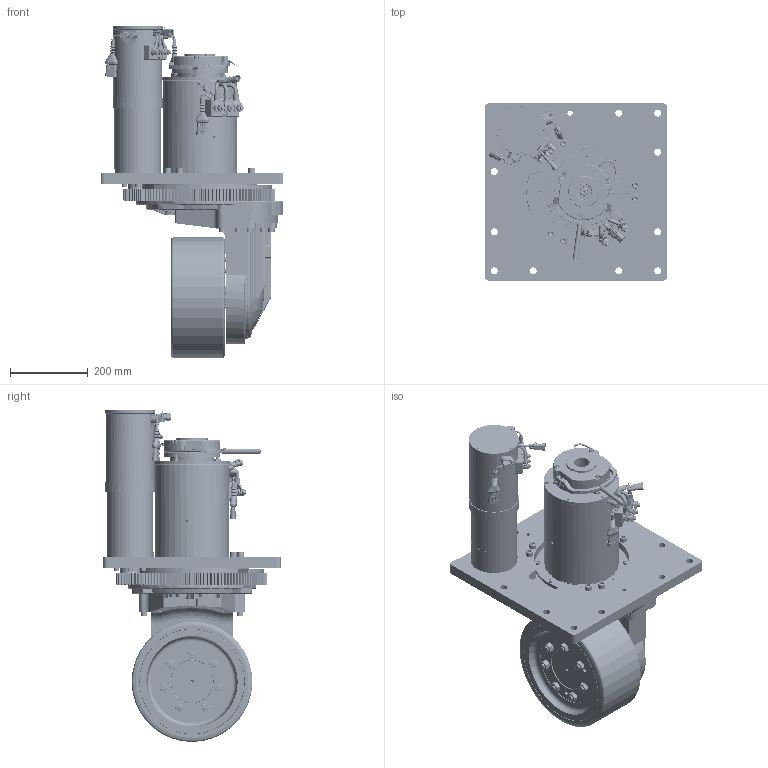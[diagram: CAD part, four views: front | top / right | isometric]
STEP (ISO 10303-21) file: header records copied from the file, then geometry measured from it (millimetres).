
FILE_DESCRIPTION(/* description */ (''),/* implementation_level */ '2;1');
FILE_NAME(/* name */ 'C:\Users\marco bosi\Desktop\WR310FMS-AC191.stp',/* time_stamp */ '2023-07-13T14:38:07+02:00',/* author */ ('marco bosi'),/* organization */ (''),/* preprocessor_version */ 'ST-DEVELOPER v18.1',/* originating_system */ 'Autodesk Inventor 2022',/* authorisation */ '');
FILE_SCHEMA (('AUTOMOTIVE_DESIGN { 1 0 10303 214 3 1 1 }'));
Products named in the file (1): WR310FMS3_Semplifica_1
Bounding box: 470 x 455 x 852.8 mm (x, y, z)
Volume: 26022982.8 mm3; surface area: 2955891.8 mm2
Topology: 6 solids, 7 shells, 15816 faces, 42489 edges, 27688 vertices
Faces by surface type: plane 11718, cylinder 2447, cone 832, bspline 410, torus 369, sphere 40
Full cylindrical faces by diameter (mm): 1 x2, 2.5 x2, 4 x10, 4.134 x5, 4.5 x4, 4.8 x1, 4.917 x15, 5 x21, 5.3 x6, 5.5 x10, 6 x38, 6.1 x3, 6.2 x6, 6.3 x2, 6.4 x2, 6.5 x24, 6.647 x15, 6.8 x4, 7 x2, 7.5 x1, 8 x16, 8.2 x3, 8.376 x6, 8.5 x18, 9 x14, 9.026 x3, 9.8 x9, 10 x38, 10.106 x16, 10.2 x5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
Entity records: 535660 total; most frequent: CARTESIAN_POINT 120804, ORIENTED_EDGE 84644, DIRECTION 81959, EDGE_CURVE 42322, AXIS2_PLACEMENT_3D 27767, VERTEX_POINT 27688, LINE 26425, VECTOR 26425
